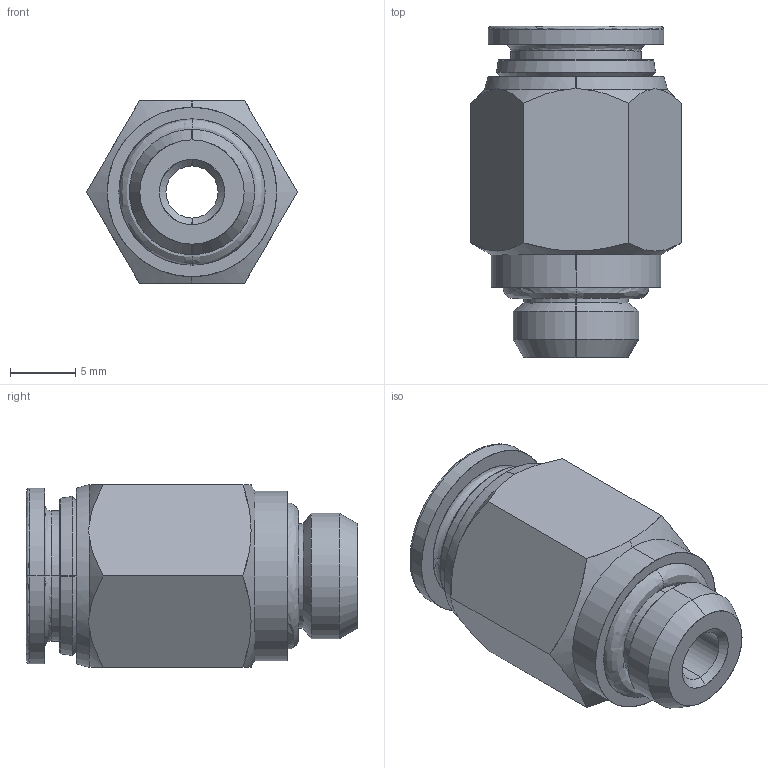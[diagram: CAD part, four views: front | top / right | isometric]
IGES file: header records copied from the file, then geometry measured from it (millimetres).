
Start section: SolidWorks IGES file using analytic representation for surfaces
Global section: file name: K:\Disegni Esecutivi\SERIE 59000 - FOODS and DRINK\ASSIEMI\59020\IGES e STEP\5902000005A.IGS; native system: SolidWorks 2020; preprocessor: SolidWorks 2020; author: CAD13; date: 241022.082919; units: millimetre
Bounding box: 16.17 x 25.45 x 14 mm (x, y, z)
Surface area: 2007.5 mm2 (no closed solid volume)
Topology: 0 solids, 0 shells, 104 faces, 1326 edges, 1326 vertices
Faces by surface type: bspline 66, revolution 38
